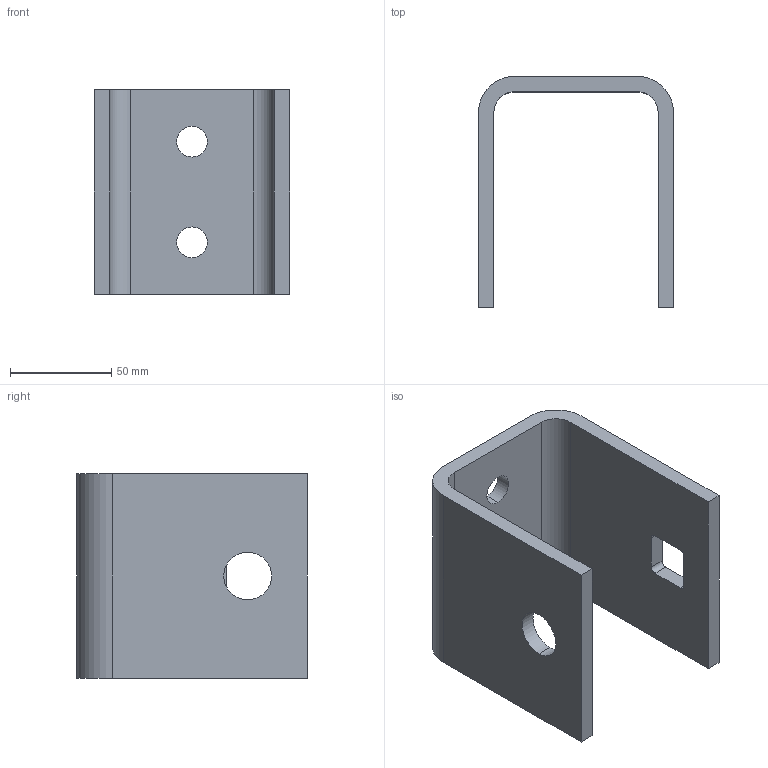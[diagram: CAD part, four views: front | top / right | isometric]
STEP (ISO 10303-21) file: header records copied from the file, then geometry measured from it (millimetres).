
FILE_DESCRIPTION (( 'STEP AP214' ), '1' );
FILE_NAME ('7K 12in Equalizer Center Hanger.STEP', '2025-10-31T19:18:41', ( '' ), ( '' ), 'SwSTEP 2.0', 'SolidWorks 2023', '' );
FILE_SCHEMA (( 'AUTOMOTIVE_DESIGN' ));
Length unit declared in the file: inch
Products named in the file (1): 7K 12in Equalizer Center Hanger
Bounding box: 96.52 x 114.3 x 101.09 mm (x, y, z)
Volume: 219410.1 mm3; surface area: 65627.1 mm2
Topology: 1 solids, 1 shells, 28 faces, 78 edges, 52 vertices
Faces by surface type: cylinder 14, plane 14
Entity records: 953 total; most frequent: DIRECTION 164, CARTESIAN_POINT 159, ORIENTED_EDGE 156, EDGE_CURVE 78, AXIS2_PLACEMENT_3D 57, VERTEX_POINT 52, LINE 50, VECTOR 50
